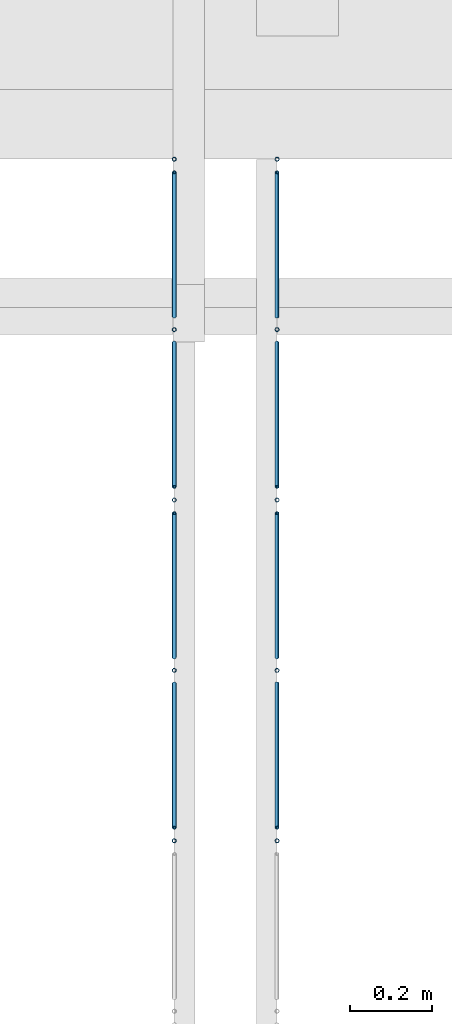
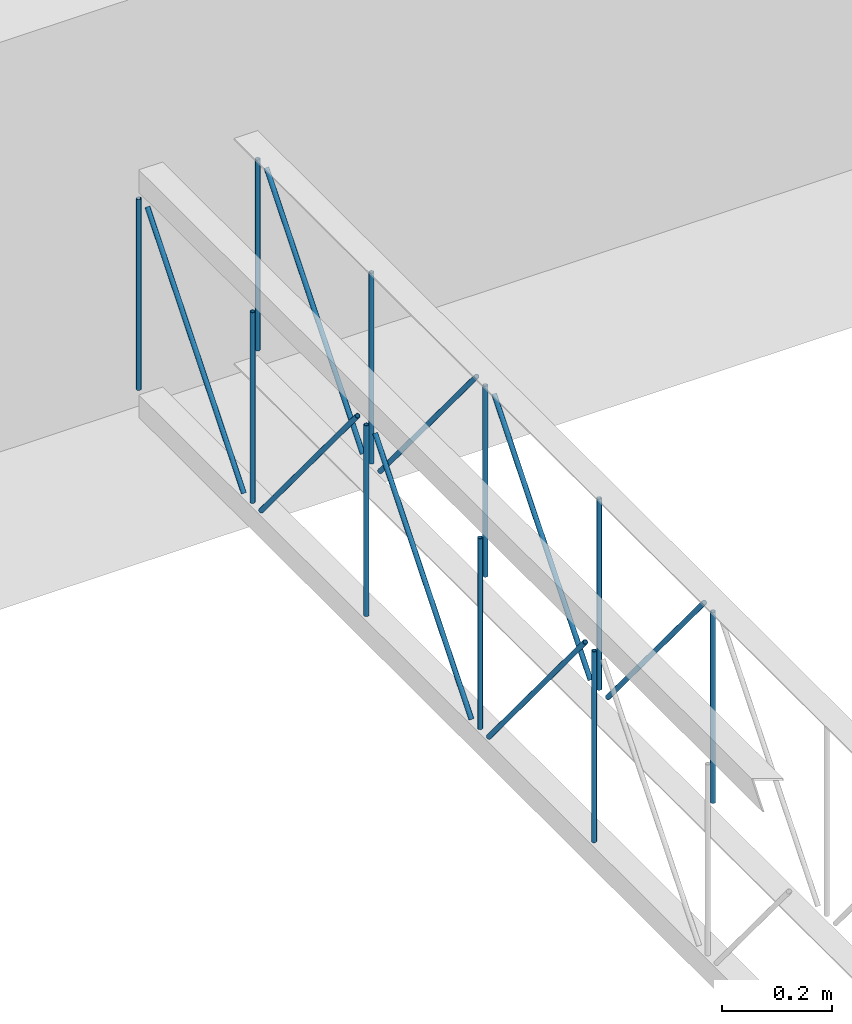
# One storey, part 94 of 153: 18 members, 2 elements without a shape of their own.
"""IFC4 building model written with IfcOpenShell, lengths in metres."""

from ifc_helpers import new_model, entity, si_unit, converted_unit, derived_unit, direction, frame, origin, place, context, subcontext, project, spatial, arc, indexed_curve, outline, extrude, source, transform, mapped, material, type_object, type_shapes, element, aggregate, save


model = new_model("IFC4")

# Units and contexts
model_context = context("Model", 3, precision=1e-05, world=origin(), true_north=direction((6.123031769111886e-17, 1.0)))
body_context = subcontext(model_context, "Body", "Model", "MODEL_VIEW")
ifc_project = project(units=[si_unit("LENGTHUNIT", "METRE"), si_unit("AREAUNIT", "SQUARE_METRE"), si_unit("VOLUMEUNIT", "CUBIC_METRE"), converted_unit("PLANEANGLEUNIT", "DEGREE", entity("IfcRatioMeasure", 0.017453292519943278), si_unit("PLANEANGLEUNIT", "RADIAN"), dimensions=[0, 0, 0, 0, 0, 0, 0]), si_unit("MASSUNIT", "GRAM", prefix="KILO"), derived_unit("MASSDENSITYUNIT", [(si_unit("MASSUNIT", "GRAM", prefix="KILO"), 1), (si_unit("LENGTHUNIT", "METRE"), -3)]), derived_unit("MOMENTOFINERTIAUNIT", [(si_unit("LENGTHUNIT", "METRE"), 4)]), si_unit("TIMEUNIT", "SECOND"), si_unit("FREQUENCYUNIT", "HERTZ"), si_unit("THERMODYNAMICTEMPERATUREUNIT", "DEGREE_CELSIUS"), derived_unit("THERMALTRANSMITTANCEUNIT", [(si_unit("MASSUNIT", "GRAM", prefix="KILO"), 1), (si_unit("THERMODYNAMICTEMPERATUREUNIT", "KELVIN"), -1), (si_unit("TIMEUNIT", "SECOND"), -3)]), derived_unit("VOLUMETRICFLOWRATEUNIT", [(si_unit("LENGTHUNIT", "METRE"), 3), (si_unit("TIMEUNIT", "SECOND"), -1)]), derived_unit("MASSFLOWRATEUNIT", [(si_unit("MASSUNIT", "GRAM", prefix="KILO"), 1), (si_unit("TIMEUNIT", "SECOND"), -1)]), derived_unit("ROTATIONALFREQUENCYUNIT", [(si_unit("TIMEUNIT", "SECOND"), -1)]), si_unit("ELECTRICCURRENTUNIT", "AMPERE"), si_unit("ELECTRICVOLTAGEUNIT", "VOLT"), si_unit("POWERUNIT", "WATT"), si_unit("FORCEUNIT", "NEWTON", prefix="KILO"), si_unit("ILLUMINANCEUNIT", "LUX"), si_unit("LUMINOUSFLUXUNIT", "LUMEN"), si_unit("LUMINOUSINTENSITYUNIT", "CANDELA"), derived_unit("USERDEFINED", [(si_unit("MASSUNIT", "GRAM", prefix="KILO"), -1), (si_unit("LENGTHUNIT", "METRE"), -2), (si_unit("TIMEUNIT", "SECOND"), 3), (si_unit("LUMINOUSFLUXUNIT", "LUMEN"), 1)]), derived_unit("SOUNDPOWERUNIT", [(si_unit("MASSUNIT", "GRAM", prefix="KILO"), 1), (si_unit("LENGTHUNIT", "METRE"), 2), (si_unit("TIMEUNIT", "SECOND"), -3)]), derived_unit("SOUNDPRESSUREUNIT", [(si_unit("MASSUNIT", "GRAM", prefix="KILO"), 1), (si_unit("LENGTHUNIT", "METRE"), -1), (si_unit("TIMEUNIT", "SECOND"), -2)]), derived_unit("LINEARVELOCITYUNIT", [(si_unit("LENGTHUNIT", "METRE"), 1), (si_unit("TIMEUNIT", "SECOND"), -1)]), si_unit("PRESSUREUNIT", "PASCAL"), derived_unit("USERDEFINED", [(si_unit("LENGTHUNIT", "METRE"), -2), (si_unit("MASSUNIT", "GRAM", prefix="KILO"), 1), (si_unit("TIMEUNIT", "SECOND"), -2)]), derived_unit("LINEARFORCEUNIT", [(si_unit("MASSUNIT", "GRAM", prefix="KILO"), 1), (si_unit("LENGTHUNIT", "METRE"), 1), (si_unit("TIMEUNIT", "SECOND"), -2), (si_unit("LENGTHUNIT", "METRE"), -1)]), derived_unit("PLANARFORCEUNIT", [(si_unit("MASSUNIT", "GRAM", prefix="KILO"), 1), (si_unit("LENGTHUNIT", "METRE"), 1), (si_unit("TIMEUNIT", "SECOND"), -2), (si_unit("LENGTHUNIT", "METRE"), -2)])], contexts=[model_context])

# Site, building, storey
site_placement = place(None, origin())
site = spatial("IfcSite", under=ifc_project, at=site_placement, Name="Superficie", CompositionType="ELEMENT")
building_placement = place(site_placement, origin())
building = spatial("IfcBuilding", under=site, at=building_placement, CompositionType="ELEMENT")
storey_placement = place(building_placement, frame((0.0, 0.0, 3.5999999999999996)))
storey = spatial("IfcBuildingStorey", under=building, at=storey_placement, Name="Nivel 1", CompositionType="ELEMENT", Elevation=3.5999999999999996)

# Assembly, members
assembly_1_placement = place(storey_placement, origin())
assembly_1 = element("IfcElementAssembly", 1, at=assembly_1_placement, inside=storey, Name="Viga de celosia 13:Viga de celosia 13", ObjectType="Viga de celosia 13:Viga de celosia 13", AssemblyPlace="NOTDEFINED", PredefinedType="TRUSS")
ifc_material = material(Name="Metal - Calibre delgado", Category="Metal")
member_type_1 = type_object("IfcMemberType", Name="HSS-Tubo estructural redondo:HSS 0.01", PredefinedType="BRACE", material=ifc_material)
shared_shape_1 = source(origin(), body_context, "Body", "SweptSolid", [
    extrude(outline(indexed_curve([(-0.005000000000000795, 7.502054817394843e-18), (-9.800269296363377e-18, -0.005000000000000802), (0.005000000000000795, -7.502054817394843e-18), (8.07772287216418e-18, 0.005000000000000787)], segments=[arc(1, 2, 3), arc(3, 4, 1)], self_intersect=False), holes=[indexed_curve([(0.003999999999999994, 7.222511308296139e-17), (6.910645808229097e-17, -0.004000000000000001), (-0.003999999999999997, -1.8650054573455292e-17), (-2.9156497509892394e-17, 0.003999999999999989)], segments=[arc(1, 2, 3), arc(3, 4, 1)], self_intersect=False)]), frame((-0.21200000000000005, 0.0, 0.0), z_axis=(1.0, 0.0, 0.0), x_axis=(0.0, 1.0, 0.0)), (0.0, 0.0, 1.0), 0.4240000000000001),
])
type_shapes(member_type_1, [shared_shape_1])
member_1_placement = place(assembly_1_placement, frame((10.886799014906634, -4.990991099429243, 0.25), z_axis=(0.0, 1.0, 0.0), x_axis=(0.0, 0.0, 1.0)))
member_1 = element("IfcMember", 2, at=member_1_placement, type_object=member_type_1, material=ifc_material, Name="HSS-Tubo estructural redondo:HSS 0.01", ObjectType="HSS-Tubo estructural redondo:HSS 0.01", PredefinedType="BRACE", context=body_context, shape_type="MappedRepresentation", body=[
    mapped(shared_shape_1, transform((0.0, 0.0, 0.0), scale=1.0)),
])
member_2_placement = place(assembly_1_placement, frame((10.886799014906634, -4.576645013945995, 0.25), z_axis=(0.0, 1.0, 0.0), x_axis=(0.0, 0.0, 1.0)))
member_2 = element("IfcMember", 3, at=member_2_placement, type_object=member_type_1, material=ifc_material, Name="HSS-Tubo estructural redondo:HSS 0.01", ObjectType="HSS-Tubo estructural redondo:HSS 0.01", PredefinedType="BRACE", context=body_context, shape_type="MappedRepresentation", body=[
    mapped(shared_shape_1, transform((0.0, 0.0, 0.0), scale=1.0)),
])
member_3_placement = place(assembly_1_placement, frame((10.886799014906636, -4.1622989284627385, 0.25), z_axis=(0.0, 1.0, 0.0), x_axis=(0.0, 0.0, 1.0)))
member_3 = element("IfcMember", 4, at=member_3_placement, type_object=member_type_1, material=ifc_material, Name="HSS-Tubo estructural redondo:HSS 0.01", ObjectType="HSS-Tubo estructural redondo:HSS 0.01", PredefinedType="BRACE", context=body_context, shape_type="MappedRepresentation", body=[
    mapped(shared_shape_1, transform((0.0, 0.0, 0.0), scale=1.0)),
])
member_4_placement = place(assembly_1_placement, frame((10.886799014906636, -3.747952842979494, 0.25), z_axis=(0.0, 1.0, 0.0), x_axis=(0.0, 0.0, 1.0)))
member_4 = element("IfcMember", 5, at=member_4_placement, type_object=member_type_1, material=ifc_material, Name="HSS-Tubo estructural redondo:HSS 0.01", ObjectType="HSS-Tubo estructural redondo:HSS 0.01", PredefinedType="BRACE", context=body_context, shape_type="MappedRepresentation", body=[
    mapped(shared_shape_1, transform((0.0, 0.0, 0.0), scale=1.0)),
])
member_5_placement = place(assembly_1_placement, frame((10.886799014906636, -3.3336067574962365, 0.25), z_axis=(0.0, 1.0, 0.0), x_axis=(0.0, 0.0, 1.0)))
member_5 = element("IfcMember", 6, at=member_5_placement, type_object=member_type_1, material=ifc_material, Name="HSS-Tubo estructural redondo:HSS 0.01", ObjectType="HSS-Tubo estructural redondo:HSS 0.01", PredefinedType="BRACE", context=body_context, shape_type="MappedRepresentation", body=[
    mapped(shared_shape_1, transform((0.0, 0.0, 0.0), scale=1.0)),
])
member_type_2 = type_object("IfcMemberType", Name="HSS-Tubo estructural redondo:HSS 0.01", PredefinedType="BRACE", material=ifc_material)
shared_shape_2 = source(origin(), body_context, "Body", "SweptSolid", [
    extrude(outline(indexed_curve([(-0.005000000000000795, 7.502054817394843e-18), (-9.800269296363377e-18, -0.005000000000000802), (0.005000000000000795, -7.502054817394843e-18), (8.07772287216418e-18, 0.005000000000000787)], segments=[arc(1, 2, 3), arc(3, 4, 1)], self_intersect=False), holes=[indexed_curve([(0.003999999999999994, 7.222511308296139e-17), (6.910645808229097e-17, -0.004000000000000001), (-0.003999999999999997, -1.8650054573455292e-17), (-2.9156497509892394e-17, 0.003999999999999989)], segments=[arc(1, 2, 3), arc(3, 4, 1)], self_intersect=False)]), frame((-0.275, 0.0, 0.0), z_axis=(1.0, 0.0, 0.0), x_axis=(0.0, 1.0, 0.0)), (0.0, 0.0, 1.0), 0.55),
])
type_shapes(member_type_2, [shared_shape_2])
member_6_placement = place(assembly_1_placement, frame((10.886799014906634, -4.783818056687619, 0.25), z_axis=(0.0, -0.7699758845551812, -0.6380729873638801), x_axis=(0.0, 0.6380729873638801, -0.7699758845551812)))
member_6 = element("IfcMember", 7, at=member_6_placement, type_object=member_type_2, material=ifc_material, Name="HSS-Tubo estructural redondo:HSS 0.01", ObjectType="HSS-Tubo estructural redondo:HSS 0.01", PredefinedType="BRACE", context=body_context, shape_type="MappedRepresentation", body=[
    mapped(shared_shape_2, transform((0.0, 0.0, 0.0), scale=1.0)),
])
member_7_placement = place(assembly_1_placement, frame((10.886799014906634, -4.3694719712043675, 0.25), z_axis=(0.0, 0.7699758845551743, -0.6380729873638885), x_axis=(0.0, 0.6380729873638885, 0.7699758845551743)))
member_7 = element("IfcMember", 8, at=member_7_placement, type_object=member_type_2, material=ifc_material, Name="HSS-Tubo estructural redondo:HSS 0.01", ObjectType="HSS-Tubo estructural redondo:HSS 0.01", PredefinedType="BRACE", context=body_context, shape_type="MappedRepresentation", body=[
    mapped(shared_shape_2, transform((0.0, 0.0, 0.0), scale=1.0)),
])
member_8_placement = place(assembly_1_placement, frame((10.886799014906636, -3.9551258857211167, 0.25), z_axis=(0.0, -0.7699758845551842, -0.6380729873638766), x_axis=(0.0, 0.6380729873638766, -0.7699758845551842)))
member_8 = element("IfcMember", 9, at=member_8_placement, type_object=member_type_2, material=ifc_material, Name="HSS-Tubo estructural redondo:HSS 0.01", ObjectType="HSS-Tubo estructural redondo:HSS 0.01", PredefinedType="BRACE", context=body_context, shape_type="MappedRepresentation", body=[
    mapped(shared_shape_2, transform((0.0, 0.0, 0.0), scale=1.0)),
])
member_9_placement = place(assembly_1_placement, frame((10.886799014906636, -3.540779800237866, 0.25000000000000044), z_axis=(0.0, 0.7699758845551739, -0.638072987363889), x_axis=(0.0, 0.638072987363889, 0.7699758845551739)))
member_9 = element("IfcMember", 10, at=member_9_placement, type_object=member_type_2, material=ifc_material, Name="HSS-Tubo estructural redondo:HSS 0.01", ObjectType="HSS-Tubo estructural redondo:HSS 0.01", PredefinedType="BRACE", context=body_context, shape_type="MappedRepresentation", body=[
    mapped(shared_shape_2, transform((0.0, 0.0, 0.0), scale=1.0)),
])
aggregate(assembly_1, [member_1, member_2, member_3, member_4, member_5, member_6, member_7, member_8, member_9])

assembly_2_placement = place(storey_placement, origin())
assembly_2 = element("IfcElementAssembly", 11, at=assembly_2_placement, inside=storey, Name="Viga de celosia 13:Viga de celosia 13", ObjectType="Viga de celosia 13:Viga de celosia 13", AssemblyPlace="NOTDEFINED", PredefinedType="TRUSS")
member_type_3 = type_object("IfcMemberType", Name="HSS-Tubo estructural redondo:HSS 0.01", PredefinedType="BRACE", material=ifc_material)
shared_shape_3 = source(origin(), body_context, "Body", "SweptSolid", [
    extrude(outline(indexed_curve([(-0.005000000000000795, 2.0824731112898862e-17), (-2.3122945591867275e-17, -0.005000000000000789), (0.005000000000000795, -2.08247311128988e-17), (2.14003991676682e-17, 0.005000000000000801)], segments=[arc(1, 2, 3), arc(3, 4, 1)], self_intersect=False), holes=[indexed_curve([(0.003999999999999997, -1.3094283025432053e-17), (-1.531427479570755e-18, -0.003999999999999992), (-0.004, 4.0098531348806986e-17), (4.1481388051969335e-17, 0.0039999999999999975)], segments=[arc(1, 2, 3), arc(3, 4, 1)], self_intersect=False)]), frame((-0.21200000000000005, 0.0, 0.0), z_axis=(1.0, 0.0, 0.0), x_axis=(0.0, -1.0, 0.0)), (0.0, 0.0, 1.0), 0.4240000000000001),
])
type_shapes(member_type_3, [shared_shape_3])
member_10_placement = place(assembly_2_placement, frame((11.13679901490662, -4.990991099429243, 0.25), z_axis=(0.0, 1.0, 0.0), x_axis=(0.0, 0.0, 1.0)))
member_10 = element("IfcMember", 12, at=member_10_placement, type_object=member_type_3, material=ifc_material, Name="HSS-Tubo estructural redondo:HSS 0.01", ObjectType="HSS-Tubo estructural redondo:HSS 0.01", PredefinedType="BRACE", context=body_context, shape_type="MappedRepresentation", body=[
    mapped(shared_shape_3, transform((0.0, 0.0, 0.0), scale=1.0)),
])
member_11_placement = place(assembly_2_placement, frame((11.13679901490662, -4.576645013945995, 0.25), z_axis=(0.0, 1.0, 0.0), x_axis=(0.0, 0.0, 1.0)))
member_11 = element("IfcMember", 13, at=member_11_placement, type_object=member_type_3, material=ifc_material, Name="HSS-Tubo estructural redondo:HSS 0.01", ObjectType="HSS-Tubo estructural redondo:HSS 0.01", PredefinedType="BRACE", context=body_context, shape_type="MappedRepresentation", body=[
    mapped(shared_shape_3, transform((0.0, 0.0, 0.0), scale=1.0)),
])
member_12_placement = place(assembly_2_placement, frame((11.136799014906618, -4.1622989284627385, 0.25), z_axis=(0.0, 1.0, 0.0), x_axis=(0.0, 0.0, 1.0)))
member_12 = element("IfcMember", 14, at=member_12_placement, type_object=member_type_3, material=ifc_material, Name="HSS-Tubo estructural redondo:HSS 0.01", ObjectType="HSS-Tubo estructural redondo:HSS 0.01", PredefinedType="BRACE", context=body_context, shape_type="MappedRepresentation", body=[
    mapped(shared_shape_3, transform((0.0, 0.0, 0.0), scale=1.0)),
])
member_13_placement = place(assembly_2_placement, frame((11.136799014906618, -3.747952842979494, 0.25), z_axis=(0.0, 1.0, 0.0), x_axis=(0.0, 0.0, 1.0)))
member_13 = element("IfcMember", 15, at=member_13_placement, type_object=member_type_3, material=ifc_material, Name="HSS-Tubo estructural redondo:HSS 0.01", ObjectType="HSS-Tubo estructural redondo:HSS 0.01", PredefinedType="BRACE", context=body_context, shape_type="MappedRepresentation", body=[
    mapped(shared_shape_3, transform((0.0, 0.0, 0.0), scale=1.0)),
])
member_14_placement = place(assembly_2_placement, frame((11.136799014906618, -3.3336067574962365, 0.25), z_axis=(0.0, 1.0, 0.0), x_axis=(0.0, 0.0, 1.0)))
member_14 = element("IfcMember", 16, at=member_14_placement, type_object=member_type_3, material=ifc_material, Name="HSS-Tubo estructural redondo:HSS 0.01", ObjectType="HSS-Tubo estructural redondo:HSS 0.01", PredefinedType="BRACE", context=body_context, shape_type="MappedRepresentation", body=[
    mapped(shared_shape_3, transform((0.0, 0.0, 0.0), scale=1.0)),
])
member_type_4 = type_object("IfcMemberType", Name="HSS-Tubo estructural redondo:HSS 0.01", PredefinedType="BRACE", material=ifc_material)
shared_shape_4 = source(origin(), body_context, "Body", "SweptSolid", [
    extrude(outline(indexed_curve([(-0.005000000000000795, 2.0824731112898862e-17), (-2.3122945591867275e-17, -0.005000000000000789), (0.005000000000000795, -2.08247311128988e-17), (2.14003991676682e-17, 0.005000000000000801)], segments=[arc(1, 2, 3), arc(3, 4, 1)], self_intersect=False), holes=[indexed_curve([(0.003999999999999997, -1.3094283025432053e-17), (-1.531427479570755e-18, -0.003999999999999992), (-0.004, 4.0098531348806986e-17), (4.1481388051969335e-17, 0.0039999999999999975)], segments=[arc(1, 2, 3), arc(3, 4, 1)], self_intersect=False)]), frame((-0.275, 0.0, 0.0), z_axis=(1.0, 0.0, 0.0), x_axis=(0.0, -1.0, 0.0)), (0.0, 0.0, 1.0), 0.55),
])
type_shapes(member_type_4, [shared_shape_4])
member_15_placement = place(assembly_2_placement, frame((11.13679901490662, -4.783818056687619, 0.25), z_axis=(0.0, -0.7699758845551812, -0.6380729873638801), x_axis=(0.0, 0.6380729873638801, -0.7699758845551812)))
member_15 = element("IfcMember", 17, at=member_15_placement, type_object=member_type_4, material=ifc_material, Name="HSS-Tubo estructural redondo:HSS 0.01", ObjectType="HSS-Tubo estructural redondo:HSS 0.01", PredefinedType="BRACE", context=body_context, shape_type="MappedRepresentation", body=[
    mapped(shared_shape_4, transform((0.0, 0.0, 0.0), scale=1.0)),
])
member_16_placement = place(assembly_2_placement, frame((11.13679901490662, -4.3694719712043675, 0.25), z_axis=(0.0, 0.7699758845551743, -0.6380729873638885), x_axis=(0.0, 0.6380729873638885, 0.7699758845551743)))
member_16 = element("IfcMember", 18, at=member_16_placement, type_object=member_type_4, material=ifc_material, Name="HSS-Tubo estructural redondo:HSS 0.01", ObjectType="HSS-Tubo estructural redondo:HSS 0.01", PredefinedType="BRACE", context=body_context, shape_type="MappedRepresentation", body=[
    mapped(shared_shape_4, transform((0.0, 0.0, 0.0), scale=1.0)),
])
member_17_placement = place(assembly_2_placement, frame((11.136799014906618, -3.9551258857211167, 0.25), z_axis=(0.0, -0.7699758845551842, -0.6380729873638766), x_axis=(0.0, 0.6380729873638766, -0.7699758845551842)))
member_17 = element("IfcMember", 19, at=member_17_placement, type_object=member_type_4, material=ifc_material, Name="HSS-Tubo estructural redondo:HSS 0.01", ObjectType="HSS-Tubo estructural redondo:HSS 0.01", PredefinedType="BRACE", context=body_context, shape_type="MappedRepresentation", body=[
    mapped(shared_shape_4, transform((0.0, 0.0, 0.0), scale=1.0)),
])
member_18_placement = place(assembly_2_placement, frame((11.136799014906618, -3.540779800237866, 0.25000000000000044), z_axis=(0.0, 0.7699758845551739, -0.638072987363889), x_axis=(0.0, 0.638072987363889, 0.7699758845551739)))
member_18 = element("IfcMember", 20, at=member_18_placement, type_object=member_type_4, material=ifc_material, Name="HSS-Tubo estructural redondo:HSS 0.01", ObjectType="HSS-Tubo estructural redondo:HSS 0.01", PredefinedType="BRACE", context=body_context, shape_type="MappedRepresentation", body=[
    mapped(shared_shape_4, transform((0.0, 0.0, 0.0), scale=1.0)),
])
aggregate(assembly_2, [member_10, member_11, member_12, member_13, member_14, member_15, member_16, member_17, member_18])

save(model, "model.ifc")
